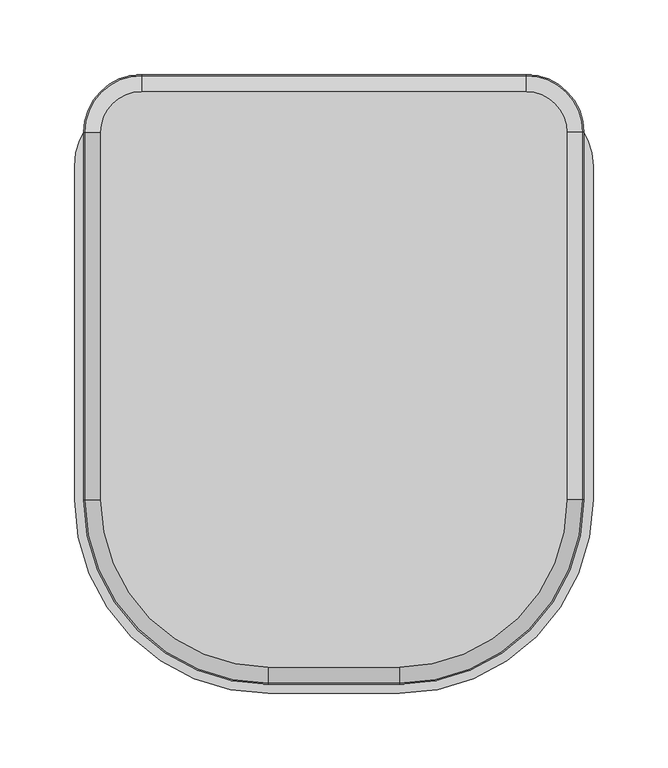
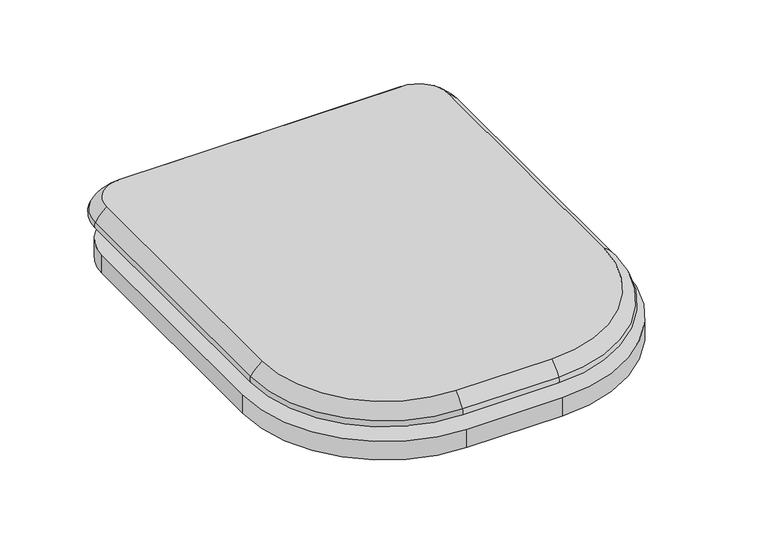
"""IFC4 building model written with IfcOpenShell, lengths in millimetres: flow terminal geometry, Inodoro-Ferrum-Tapa_y_Asiento-TKMP_TKM_TKXM_TKXMC : Tapa de Inodoro."""

from ifc_helpers import new_model, si_unit, point, frame, frame_2d, origin, origin_with_axes, place, context, project, spatial, polyline, circle_curve, ellipse_curve, trimmed, segment, composite_curve, outline, extrude, source, transform, mapped, element, save
from ifc_brep_helpers import plane_surface, cylinder_surface, revolved_surface, advanced_brep


def flow_terminal_9181aeda(model_context):
    return source(origin(), model_context, "Body", "SolidModel", [
        advanced_brep(
        [(-166.1480965, -298.6126114, 26.7638331), (-129.0734074, -261.5379222, 26.7638331), (129.0734074, -261.5379222, 26.7638331), (166.1480965, -298.6126114, 26.7638331), (166.1480965, -544.8728658, 26.7638331), (44.0734074, -666.947555, 26.7638331), (-44.0734074, -666.947555, 26.7638331), (-166.1480965, -544.8728658, 26.7638331), (-129.0734074, -271.2600119, 44.5710314), (-156.4260068, -298.6126114, 44.5710314), (-156.4260068, -544.8728658, 44.5710314), (-44.0734074, -657.2254652, 44.5710314), (44.0734074, -657.2254652, 44.5710314), (156.4260068, -544.8728658, 44.5710314), (156.4260068, -298.6126114, 44.5710314), (129.0734074, -271.2600119, 44.5710314), (-167.2181632, -298.6126114, 33.1193398), (-129.0734074, -260.4678555, 33.1193398), (-167.2181632, -544.8728658, 33.1193398), (-44.0734074, -668.0176216, 33.1193398), (44.0734074, -668.0176216, 33.1193398), (167.2181632, -544.8728658, 33.1193398), (167.2181632, -298.6126114, 33.1193398), (129.0734074, -260.4678555, 33.1193398)],
        [
            (0, 1, circle_curve(frame((-129.0734074, -298.6126114, 26.7638331), z_axis=(0.0, 0.0, -1.0), x_axis=(0.0, 1.0, 0.0)), 37.0746892)),
            (1, 2),
            (2, 3, circle_curve(frame((129.0734074, -298.6126114, 26.7638331), z_axis=(0.0, 0.0, -1.0), x_axis=(1.0, 0.0, 0.0)), 37.0746892)),
            (3, 4),
            (4, 5, circle_curve(frame((44.0734074, -544.8728658, 26.7638331), z_axis=(0.0, 0.0, -1.0), x_axis=(0.0, -1.0, 0.0)), 122.0746892)),
            (5, 6),
            (6, 7, circle_curve(frame((-44.0734074, -544.8728658, 26.7638331), z_axis=(0.0, 0.0, -1.0), x_axis=(-1.0, 0.0, 0.0)), 122.0746892)),
            (7, 0),
            (8, 9, circle_curve(frame((-129.0734074, -298.6126114, 44.5710314), z_axis=(0.0, 0.0, 1.0), x_axis=(0.0, 1.0, 0.0)), 27.3525994)),
            (9, 10),
            (10, 11, circle_curve(frame((-44.0734074, -544.8728658, 44.5710314), z_axis=(0.0, 0.0, 1.0), x_axis=(-1.0, 0.0, 0.0)), 112.3525994)),
            (11, 12),
            (12, 13, circle_curve(frame((44.0734074, -544.8728658, 44.5710314), z_axis=(0.0, 0.0, 1.0), x_axis=(0.0, -1.0, 0.0)), 112.3525994)),
            (13, 14),
            (14, 15, circle_curve(frame((129.0734074, -298.6126114, 44.5710314), z_axis=(0.0, 0.0, 1.0), x_axis=(1.0, 0.0, 0.0)), 27.3525994)),
            (15, 8),
            (16, 17, circle_curve(frame((-129.0734074, -298.6126114, 33.1193398), z_axis=(0.0, 0.0, -1.0), x_axis=(0.0, 1.0, 0.0)), 38.1447559)),
            (17, 1, circle_curve(frame((-129.0734074, -264.6806969, 30.5608132), z_axis=(-1.0, 0.0, 0.0), x_axis=(0.0, -1.0, 0.0)), 4.9289036)),
            (0, 16, circle_curve(frame((-163.0053219, -298.6126114, 30.5608132), z_axis=(0.0, 1.0, 0.0), x_axis=(1.0, 0.0, 0.0)), 4.9289036)),
            (16, 9, circle_curve(frame((-134.9548451, -298.6126114, 13.5253057), z_axis=(0.0, 1.0, 0.0), x_axis=(1.0, 0.0, 0.0)), 37.7471571)),
            (8, 17, circle_curve(frame((-129.0734074, -292.7311736, 13.5253057), z_axis=(-1.0, 0.0, 0.0), x_axis=(0.0, -1.0, 0.0)), 37.7471571)),
            (18, 16),
            (7, 18, circle_curve(frame((-163.0053219, -544.8728658, 30.5608132), z_axis=(0.0, 1.0, 0.0), x_axis=(1.0, 0.0, 0.0)), 4.9289036)),
            (18, 10, circle_curve(frame((-134.9548451, -544.8728658, 13.5253057), z_axis=(0.0, 1.0, 0.0), x_axis=(1.0, 0.0, 0.0)), 37.7471571)),
            (19, 18, circle_curve(frame((-44.0734074, -544.8728658, 33.1193398), z_axis=(0.0, 0.0, -1.0), x_axis=(-1.0, 0.0, 0.0)), 123.1447559)),
            (6, 19, circle_curve(frame((-44.0734074, -663.8047803, 30.5608132), z_axis=(-1.0, 0.0, 0.0), x_axis=(0.0, 1.0, 0.0)), 4.9289036)),
            (19, 11, circle_curve(frame((-44.0734074, -635.7543035, 13.5253057), z_axis=(-1.0, 0.0, 0.0), x_axis=(0.0, 1.0, 0.0)), 37.7471571)),
            (20, 19),
            (5, 20, circle_curve(frame((44.0734074, -663.8047803, 30.5608132), z_axis=(-1.0, 0.0, 0.0), x_axis=(0.0, 1.0, 0.0)), 4.9289036)),
            (20, 12, circle_curve(frame((44.0734074, -635.7543035, 13.5253057), z_axis=(-1.0, 0.0, 0.0), x_axis=(0.0, 1.0, 0.0)), 37.7471571)),
            (21, 20, circle_curve(frame((44.0734074, -544.8728658, 33.1193398), z_axis=(0.0, 0.0, -1.0), x_axis=(0.0, -1.0, 0.0)), 123.1447559)),
            (4, 21, circle_curve(frame((163.0053219, -544.8728658, 30.5608132), z_axis=(0.0, -1.0, 0.0), x_axis=(-1.0, 0.0, 0.0)), 4.9289036)),
            (21, 13, circle_curve(frame((134.9548451, -544.8728658, 13.5253057), z_axis=(0.0, -1.0, 0.0), x_axis=(-1.0, 0.0, 0.0)), 37.7471571)),
            (22, 21),
            (3, 22, circle_curve(frame((163.0053219, -298.6126114, 30.5608132), z_axis=(0.0, -1.0, 0.0), x_axis=(-1.0, 0.0, 0.0)), 4.9289036)),
            (22, 14, circle_curve(frame((134.9548451, -298.6126114, 13.5253057), z_axis=(0.0, -1.0, 0.0), x_axis=(-1.0, 0.0, 0.0)), 37.7471571)),
            (23, 22, circle_curve(frame((129.0734074, -298.6126114, 33.1193398), z_axis=(0.0, 0.0, -1.0), x_axis=(1.0, 0.0, 0.0)), 38.1447559)),
            (2, 23, circle_curve(frame((129.0734074, -264.6806969, 30.5608132), z_axis=(1.0, 0.0, 0.0), x_axis=(0.0, -1.0, 0.0)), 4.9289036)),
            (23, 15, circle_curve(frame((129.0734074, -292.7311736, 13.5253057), z_axis=(1.0, 0.0, 0.0), x_axis=(0.0, -1.0, 0.0)), 37.7471571)),
            (17, 23),
        ],
        [
            plane_surface(frame((95.7621224, -240.5757205, 26.7638331), z_axis=(0.0, 0.0, -1.0), x_axis=(1.0, 0.0, 0.0))),
            plane_surface(frame((95.7621224, -240.5757205, 44.5710314), z_axis=(0.0, 0.0, 1.0), x_axis=(1.0, 0.0, 0.0))),
            revolved_surface(trimmed(ellipse_curve(frame((-129.0734074, -264.6806969, 30.5608132), z_axis=(1.0, 0.0, 0.0), x_axis=(0.0, -1.0, 0.0)), 4.9289036, 4.9289036), [point((-129.0734074, -263.9894787, 25.6806177))], [point((-129.0734074, -260.4678555, 33.1193398))], True, "CARTESIAN"), (-129.0734074, -298.6126114, 44.5710314), (0.0, 0.0, 1.0)),
            revolved_surface(trimmed(ellipse_curve(frame((-129.0734074, -292.7311736, 13.5253057), z_axis=(1.0, 0.0, 0.0), x_axis=(0.0, -1.0, 0.0)), 37.7471571, 37.7471571), [point((-129.0734074, -260.4678555, 33.1193398))], [point((-129.0734074, -277.8180133, 48.2016019))], True, "CARTESIAN"), (-129.0734074, -298.6126114, 44.5710314), (0.0, 0.0, 1.0)),
            cylinder_surface(frame((-163.0053219, -298.6126114, 30.5608132), z_axis=(0.0, -1.0, 0.0), x_axis=(1.0, 0.0, 0.0)), 4.9289036),
            cylinder_surface(frame((-134.9548451, -298.6126114, 13.5253057), z_axis=(0.0, -1.0, 0.0), x_axis=(1.0, 0.0, 0.0)), 37.7471571),
            revolved_surface(trimmed(ellipse_curve(frame((-163.0053219, -544.8728658, 30.5608132), z_axis=(0.0, 1.0, 0.0), x_axis=(1.0, 0.0, 0.0)), 4.9289036, 4.9289036), [point((-163.69654, -544.8728658, 25.6806177))], [point((-167.2181632, -544.8728658, 33.1193398))], True, "CARTESIAN"), (-44.0734074, -544.8728658, 44.5710314), (0.0, 0.0, 1.0)),
            revolved_surface(trimmed(ellipse_curve(frame((-134.9548451, -544.8728658, 13.5253057), z_axis=(0.0, 1.0, 0.0), x_axis=(1.0, 0.0, 0.0)), 37.7471571, 37.7471571), [point((-167.2181632, -544.8728658, 33.1193398))], [point((-149.8680054, -544.8728658, 48.2016019))], True, "CARTESIAN"), (-44.0734074, -544.8728658, 44.5710314), (0.0, 0.0, 1.0)),
            cylinder_surface(frame((-44.0734074, -663.8047803, 30.5608132), z_axis=(1.0, 0.0, 0.0), x_axis=(0.0, 1.0, 0.0)), 4.9289036),
            cylinder_surface(frame((-44.0734074, -635.7543035, 13.5253057), z_axis=(1.0, 0.0, 0.0), x_axis=(0.0, 1.0, 0.0)), 37.7471571),
            revolved_surface(trimmed(ellipse_curve(frame((44.0734074, -663.8047803, 30.5608132), z_axis=(-1.0, 0.0, 0.0), x_axis=(0.0, 1.0, 0.0)), 4.9289036, 4.9289036), [point((44.0734074, -664.4959984, 25.6806177))], [point((44.0734074, -668.0176216, 33.1193398))], True, "CARTESIAN"), (44.0734074, -544.8728658, 44.5710314), (0.0, 0.0, 1.0)),
            revolved_surface(trimmed(ellipse_curve(frame((44.0734074, -635.7543035, 13.5253057), z_axis=(-1.0, 0.0, 0.0), x_axis=(0.0, 1.0, 0.0)), 37.7471571, 37.7471571), [point((44.0734074, -668.0176216, 33.1193398))], [point((44.0734074, -650.6674639, 48.2016019))], True, "CARTESIAN"), (44.0734074, -544.8728658, 44.5710314), (0.0, 0.0, 1.0)),
            cylinder_surface(frame((163.0053219, -544.8728658, 30.5608132), z_axis=(0.0, 1.0, 0.0), x_axis=(-1.0, 0.0, 0.0)), 4.9289036),
            cylinder_surface(frame((134.9548451, -544.8728658, 13.5253057), z_axis=(0.0, 1.0, 0.0), x_axis=(-1.0, 0.0, 0.0)), 37.7471571),
            revolved_surface(trimmed(ellipse_curve(frame((163.0053219, -298.6126114, 30.5608132), z_axis=(0.0, -1.0, 0.0), x_axis=(-1.0, 0.0, 0.0)), 4.9289036, 4.9289036), [point((163.69654, -298.6126114, 25.6806177))], [point((167.2181632, -298.6126114, 33.1193398))], True, "CARTESIAN"), (129.0734074, -298.6126114, 44.5710314), (0.0, 0.0, 1.0)),
            revolved_surface(trimmed(ellipse_curve(frame((134.9548451, -298.6126114, 13.5253057), z_axis=(0.0, -1.0, 0.0), x_axis=(-1.0, 0.0, 0.0)), 37.7471571, 37.7471571), [point((167.2181632, -298.6126114, 33.1193398))], [point((149.8680054, -298.6126114, 48.2016019))], True, "CARTESIAN"), (129.0734074, -298.6126114, 44.5710314), (0.0, 0.0, 1.0)),
            cylinder_surface(frame((129.0734074, -264.6806969, 30.5608132), z_axis=(-1.0, 0.0, 0.0), x_axis=(0.0, -1.0, 0.0)), 4.9289036),
            cylinder_surface(frame((129.0734074, -292.7311736, 13.5253057), z_axis=(-1.0, 0.0, 0.0), x_axis=(0.0, -1.0, 0.0)), 37.7471571),
        ],
        [
            (0, [[1, 2, 3, 4, 5, 6, 7, 8]]),
            (1, [[9, 10, 11, 12, 13, 14, 15, 16]]),
            (2, [[17, 18, -1, 19]]),
            (3, [[-17, 20, -9, 21]]),
            (4, [[22, -19, -8, 23]]),
            (5, [[-22, 24, -10, -20]]),
            (6, [[25, -23, -7, 26]]),
            (7, [[-25, 27, -11, -24]]),
            (8, [[28, -26, -6, 29]]),
            (9, [[-28, 30, -12, -27]]),
            (10, [[31, -29, -5, 32]]),
            (11, [[-31, 33, -13, -30]]),
            (12, [[34, -32, -4, 35]]),
            (13, [[-34, 36, -14, -33]]),
            (14, [[37, -35, -3, 38]]),
            (15, [[-37, 39, -15, -36]]),
            (16, [[40, -38, -2, -18]]),
            (17, [[-40, -21, -16, -39]]),
        ],
    ),
        extrude(outline(composite_curve([segment(polyline([(-129.0734074, -276.1126114), (129.0734074, -276.1126114)]), True, "CONTINUOUS"), segment(trimmed(circle_curve(frame_2d((129.0734074, -321.1126114)), 45.0), [point((129.0734074, -276.1126114))], [point((174.0734074, -321.1126114))], False, "CARTESIAN"), True, "CONTINUOUS"), segment(polyline([(174.0734074, -321.1126114), (174.0734074, -544.8728658)]), True, "CONTINUOUS"), segment(trimmed(circle_curve(frame_2d((44.0734074, -544.8728658)), 130.0), [point((174.0734074, -544.8728658))], [point((44.0734074, -674.8728658))], False, "CARTESIAN"), True, "CONTINUOUS"), segment(polyline([(44.0734074, -674.8728658), (-44.0734074, -674.8728658)]), True, "CONTINUOUS"), segment(trimmed(circle_curve(frame_2d((-44.0734074, -544.8728658)), 130.0), [point((-44.0734074, -674.8728658))], [point((-174.0734074, -544.8728658))], False, "CARTESIAN"), True, "CONTINUOUS"), segment(polyline([(-174.0734074, -544.8728658), (-174.0734074, -321.1126114)]), True, "CONTINUOUS"), segment(trimmed(circle_curve(frame_2d((-129.0734074, -321.1126114)), 45.0), [point((-174.0734074, -321.1126114))], [point((-129.0734074, -276.1126114))], False, "CARTESIAN"), True, "CONTINUOUS")], self_intersect=False)), origin_with_axes(), (0.0, 0.0, 1.0), 17.8071983),
    ])


if __name__ == "__main__":
    model = new_model("IFC4")
    model_context = context("Model", 3, world=origin())
    ifc_project = project(units=[si_unit("LENGTHUNIT", "METRE", prefix="MILLI")], contexts=[model_context])
    site = spatial("IfcSite", under=ifc_project)
    building = spatial("IfcBuilding", under=site)
    placement = place(None, origin())
    flow_terminal_shape = flow_terminal_9181aeda(model_context)
    element("IfcFlowTerminal", 1, ObjectType="Inodoro-Ferrum-Tapa_y_Asiento-TKMP_TKM_TKXM_TKXMC : Tapa de Inodoro", at=placement, inside=building, context=model_context, shape_type="MappedRepresentation", body=[
        mapped(flow_terminal_shape, transform((0.0, 0.0, 0.0), x_axis=(1.0, 0.0, 0.0), y_axis=(0.0, 1.0, 0.0), z_axis=(0.0, 0.0, 1.0))),
    ])
    save(model, "model.ifc")
